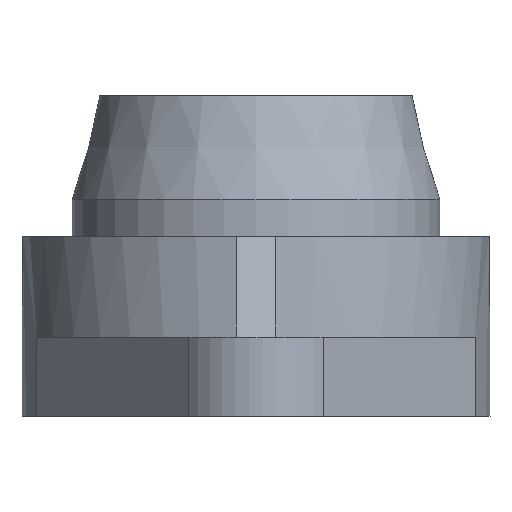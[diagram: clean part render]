
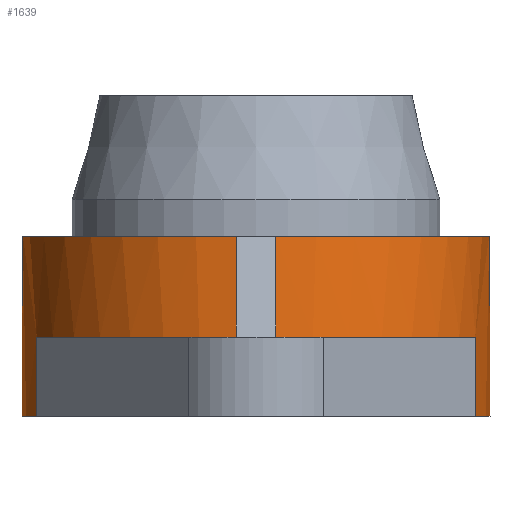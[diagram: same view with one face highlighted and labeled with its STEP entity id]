
A CAD part, front view. The second image highlights one B-rep face of the part: STEP entity #1639.
In plain terms, the highlighted cylindrical face has radius 47.5 mm (diameter 95 mm), a partial arc.
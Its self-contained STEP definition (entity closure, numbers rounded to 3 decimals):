
#132=FACE_BOUND('',#265,.T.);
#167=FACE_OUTER_BOUND('',#264,.T.);
#264=EDGE_LOOP('',(#1093,#1094,#1095,#1096,#1097,#1098,#1099,#1100));
#265=EDGE_LOOP('',(#1101,#1102));
#389=B_SPLINE_CURVE_WITH_KNOTS('',3,(#2636,#2637,#2638,#2639,#2640,#2641,
#2642,#2643,#2644,#2645,#2646,#2647,#2648,#2649,#2650,#2651,#2652,#2653),
 .UNSPECIFIED.,.F.,.F.,(4,2,2,2,2,2,2,2,4),(0.375,0.469,
0.563,0.656,0.75,0.844,
0.938,1.032,1.125),.UNSPECIFIED.);
#390=B_SPLINE_CURVE_WITH_KNOTS('',3,(#2654,#2655,#2656,#2657,#2658,#2659,
#2660,#2661,#2662,#2663,#2664,#2665,#2666,#2667,#2668,#2669,#2670,#2671,
#2672),.UNSPECIFIED.,.F.,.F.,(4,2,2,2,3,2,2,2,4),(1.125,1.219,
1.313,1.407,1.5,1.594,1.688,
1.782,1.876),.UNSPECIFIED.);
#402=LINE('',#2620,#491);
#403=LINE('',#2624,#492);
#404=LINE('',#2628,#493);
#405=LINE('',#2632,#494);
#491=VECTOR('',#2075,10.);
#492=VECTOR('',#2078,10.);
#493=VECTOR('',#2081,10.);
#494=VECTOR('',#2084,10.);
#586=CIRCLE('',#1851,47.5);
#587=CIRCLE('',#1852,47.5);
#588=CIRCLE('',#1853,47.5);
#589=CIRCLE('',#1854,47.5);
#693=VERTEX_POINT('',#2618);
#694=VERTEX_POINT('',#2619);
#695=VERTEX_POINT('',#2621);
#696=VERTEX_POINT('',#2623);
#697=VERTEX_POINT('',#2625);
#698=VERTEX_POINT('',#2627);
#699=VERTEX_POINT('',#2629);
#700=VERTEX_POINT('',#2631);
#701=VERTEX_POINT('',#2634);
#702=VERTEX_POINT('',#2635);
#856=EDGE_CURVE('',#693,#694,#402,.T.);
#857=EDGE_CURVE('',#695,#694,#586,.T.);
#858=EDGE_CURVE('',#696,#695,#403,.T.);
#859=EDGE_CURVE('',#696,#697,#587,.T.);
#860=EDGE_CURVE('',#697,#698,#404,.T.);
#861=EDGE_CURVE('',#699,#698,#588,.T.);
#862=EDGE_CURVE('',#699,#700,#405,.T.);
#863=EDGE_CURVE('',#700,#693,#589,.T.);
#864=EDGE_CURVE('',#701,#702,#389,.T.);
#865=EDGE_CURVE('',#702,#701,#390,.T.);
#1093=ORIENTED_EDGE('',*,*,#856,.T.);
#1094=ORIENTED_EDGE('',*,*,#857,.F.);
#1095=ORIENTED_EDGE('',*,*,#858,.F.);
#1096=ORIENTED_EDGE('',*,*,#859,.T.);
#1097=ORIENTED_EDGE('',*,*,#860,.T.);
#1098=ORIENTED_EDGE('',*,*,#861,.F.);
#1099=ORIENTED_EDGE('',*,*,#862,.T.);
#1100=ORIENTED_EDGE('',*,*,#863,.T.);
#1101=ORIENTED_EDGE('',*,*,#864,.T.);
#1102=ORIENTED_EDGE('',*,*,#865,.T.);
#1546=CYLINDRICAL_SURFACE('',#1850,47.5);
#1639=ADVANCED_FACE('',(#167,#132),#1546,.T.);
#1850=AXIS2_PLACEMENT_3D('',#2617,#2073,#2074);
#1851=AXIS2_PLACEMENT_3D('',#2622,#2076,#2077);
#1852=AXIS2_PLACEMENT_3D('',#2626,#2079,#2080);
#1853=AXIS2_PLACEMENT_3D('',#2630,#2082,#2083);
#1854=AXIS2_PLACEMENT_3D('',#2633,#2085,#2086);
#2073=DIRECTION('center_axis',(0.,0.,1.));
#2074=DIRECTION('ref_axis',(0.,1.,0.));
#2075=DIRECTION('',(0.,0.,-1.));
#2076=DIRECTION('center_axis',(0.,0.,
-1.));
#2077=DIRECTION('ref_axis',(-1.,0.,0.));
#2078=DIRECTION('',(0.,0.,1.));
#2079=DIRECTION('center_axis',(0.,0.,1.));
#2080=DIRECTION('ref_axis',(0.937,-0.35,0.));
#2081=DIRECTION('',(0.,0.,1.));
#2082=DIRECTION('center_axis',(0.,0.,
-1.));
#2083=DIRECTION('ref_axis',(-1.,0.,0.));
#2084=DIRECTION('',(0.,0.,1.));
#2085=DIRECTION('center_axis',(0.,0.,-1.));
#2086=DIRECTION('ref_axis',(-1.,0.,0.));
#2617=CARTESIAN_POINT('Origin',(0.,0.,-21.7));
#2618=CARTESIAN_POINT('',(4.,-47.331,14.8));
#2619=CARTESIAN_POINT('',(4.,-47.331,-5.6));
#2620=CARTESIAN_POINT('',(4.,-47.331,-21.7));
#2621=CARTESIAN_POINT('',(44.5,-16.613,-5.6));
#2622=CARTESIAN_POINT('Origin',(0.,0.,-5.6));
#2623=CARTESIAN_POINT('',(44.5,-16.613,-21.7));
#2624=CARTESIAN_POINT('',(44.5,-16.613,-21.7));
#2625=CARTESIAN_POINT('',(-44.5,-16.613,-21.7));
#2626=CARTESIAN_POINT('Origin',(0.,0.,-21.7));
#2627=CARTESIAN_POINT('',(-44.5,-16.613,-5.6));
#2628=CARTESIAN_POINT('',(-44.5,-16.613,-21.7));
#2629=CARTESIAN_POINT('',(-4.,-47.331,-5.6));
#2630=CARTESIAN_POINT('Origin',(0.,0.,-5.6));
#2631=CARTESIAN_POINT('',(-4.,-47.331,14.8));
#2632=CARTESIAN_POINT('',(-4.,-47.331,-21.7));
#2633=CARTESIAN_POINT('Origin',(0.,0.,14.8));
#2634=CARTESIAN_POINT('',(-33.588,33.588,2.811));
#2635=CARTESIAN_POINT('',(-33.588,33.588,7.789));
#2636=CARTESIAN_POINT('Ctrl Pts',(-33.588,33.588,2.811));
#2637=CARTESIAN_POINT('Ctrl Pts',(-33.367,33.809,2.811));
#2638=CARTESIAN_POINT('Ctrl Pts',(-33.128,34.042,2.873));
#2639=CARTESIAN_POINT('Ctrl Pts',(-32.686,34.467,3.128));
#2640=CARTESIAN_POINT('Ctrl Pts',(-32.482,34.659,3.319));
#2641=CARTESIAN_POINT('Ctrl Pts',(-32.158,34.959,3.761));
#2642=CARTESIAN_POINT('Ctrl Pts',(-32.016,35.089,4.041));
#2643=CARTESIAN_POINT('Ctrl Pts',(-31.828,35.26,4.654));
#2644=CARTESIAN_POINT('Ctrl Pts',(-31.781,35.301,4.987));
#2645=CARTESIAN_POINT('Ctrl Pts',(-31.781,35.301,5.613));
#2646=CARTESIAN_POINT('Ctrl Pts',(-31.828,35.26,5.946));
#2647=CARTESIAN_POINT('Ctrl Pts',(-32.016,35.089,6.559));
#2648=CARTESIAN_POINT('Ctrl Pts',(-32.158,34.959,6.839));
#2649=CARTESIAN_POINT('Ctrl Pts',(-32.482,34.659,7.281));
#2650=CARTESIAN_POINT('Ctrl Pts',(-32.686,34.467,7.472));
#2651=CARTESIAN_POINT('Ctrl Pts',(-33.128,34.042,7.727));
#2652=CARTESIAN_POINT('Ctrl Pts',(-33.367,33.809,7.789));
#2653=CARTESIAN_POINT('Ctrl Pts',(-33.588,33.588,7.789));
#2654=CARTESIAN_POINT('Ctrl Pts',(-33.588,33.588,7.789));
#2655=CARTESIAN_POINT('Ctrl Pts',(-33.809,33.367,7.789));
#2656=CARTESIAN_POINT('Ctrl Pts',(-34.042,33.128,7.727));
#2657=CARTESIAN_POINT('Ctrl Pts',(-34.467,32.686,7.472));
#2658=CARTESIAN_POINT('Ctrl Pts',(-34.659,32.482,7.281));
#2659=CARTESIAN_POINT('Ctrl Pts',(-34.959,32.158,6.839));
#2660=CARTESIAN_POINT('Ctrl Pts',(-35.089,32.016,6.559));
#2661=CARTESIAN_POINT('Ctrl Pts',(-35.26,31.828,5.946));
#2662=CARTESIAN_POINT('Ctrl Pts',(-35.301,31.781,5.613));
#2663=CARTESIAN_POINT('Ctrl Pts',(-35.301,31.781,5.3));
#2664=CARTESIAN_POINT('Ctrl Pts',(-35.301,31.781,4.987));
#2665=CARTESIAN_POINT('Ctrl Pts',(-35.26,31.828,4.654));
#2666=CARTESIAN_POINT('Ctrl Pts',(-35.089,32.016,4.041));
#2667=CARTESIAN_POINT('Ctrl Pts',(-34.959,32.158,3.761));
#2668=CARTESIAN_POINT('Ctrl Pts',(-34.659,32.482,3.319));
#2669=CARTESIAN_POINT('Ctrl Pts',(-34.467,32.686,3.128));
#2670=CARTESIAN_POINT('Ctrl Pts',(-34.042,33.128,2.873));
#2671=CARTESIAN_POINT('Ctrl Pts',(-33.809,33.367,2.811));
#2672=CARTESIAN_POINT('Ctrl Pts',(-33.588,33.588,2.811));
